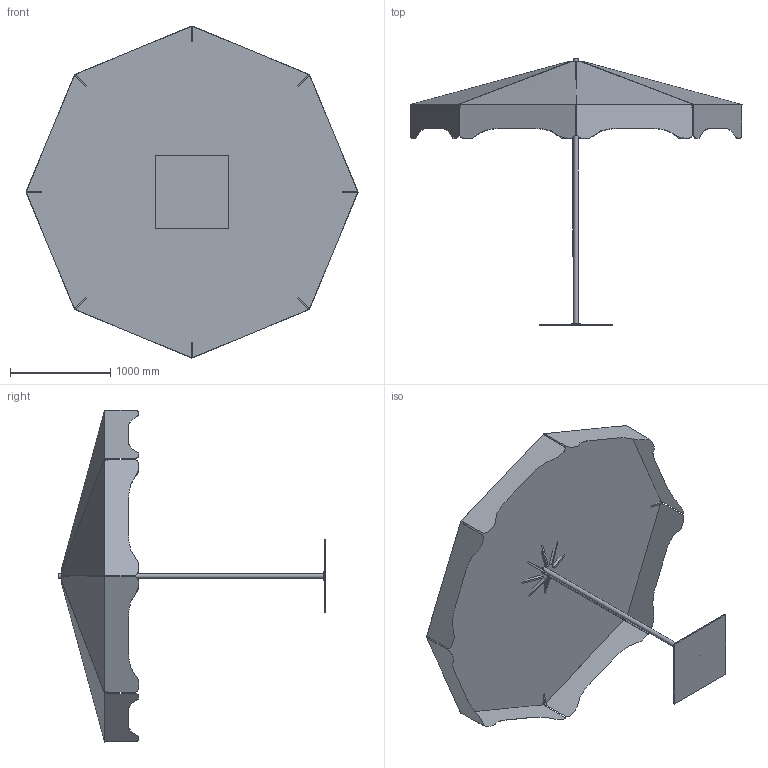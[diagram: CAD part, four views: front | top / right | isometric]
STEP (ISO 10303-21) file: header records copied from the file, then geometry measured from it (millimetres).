
FILE_DESCRIPTION(/* description */ (''),/* implementation_level */ '2;1');
FILE_NAME(/* name */ 'AMARCORD D350.stp',/* time_stamp */ '2025-11-14T09:50:38+01:00',/* author */ ('tecnico3'),/* organization */ (''),/* preprocessor_version */ 'ST-DEVELOPER v20',/* originating_system */ 'Autodesk Inventor 2024',/* authorisation */ '');
FILE_SCHEMA (('AUTOMOTIVE_DESIGN { 1 0 10303 214 3 1 1 }'));
Length unit declared in the file: millimetre
Products named in the file (1): EALLU002000_Semplifica_1
Bounding box: 3320 x 2667.89 x 3320 mm (x, y, z)
Volume: 1194488350.4 mm3; surface area: 24840342.2 mm2
Topology: 24 solids, 24 shells, 355 faces, 907 edges, 600 vertices
Faces by surface type: plane 308, cylinder 35, bspline 12
Full cylindrical faces by diameter (mm): 3.5 x1, 50 x1, 96 x1
Entity records: 11194 total; most frequent: CARTESIAN_POINT 2087, ORIENTED_EDGE 1814, DIRECTION 1695, EDGE_CURVE 907, LINE 799, VECTOR 799, VERTEX_POINT 600, AXIS2_PLACEMENT_3D 448
